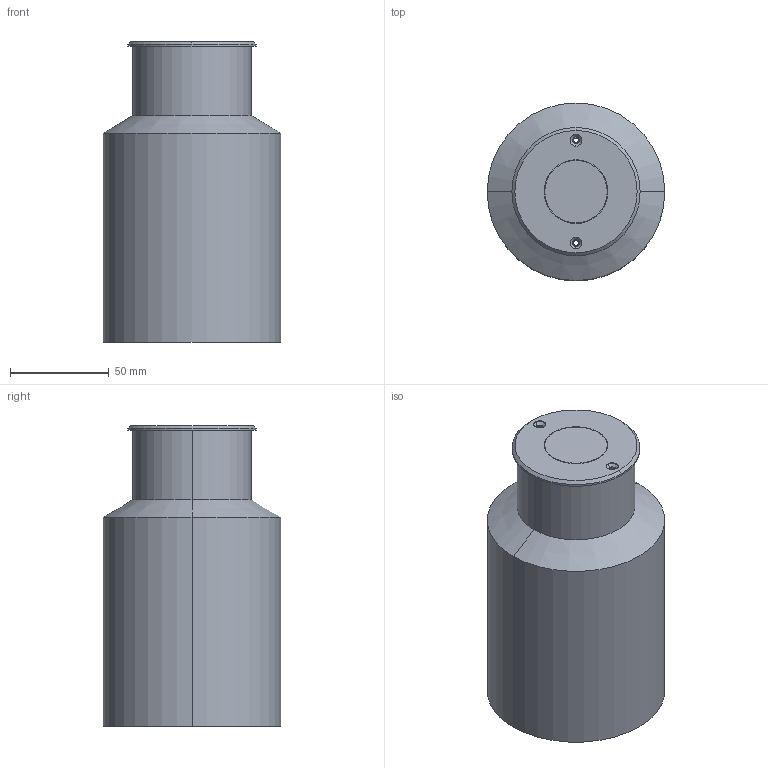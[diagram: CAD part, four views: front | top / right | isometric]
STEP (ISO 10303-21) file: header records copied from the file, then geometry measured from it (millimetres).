
FILE_DESCRIPTION((''),'2;1');
FILE_NAME('2CA_-__ASM','2020-01-10T',('Administrator'),(''),'PRO/ENGINEER BY PARAMETRIC TECHNOLOGY CORPORATION, 2014000','PRO/ENGINEER BY PARAMETRIC TECHNOLOGY CORPORATION, 2014000','');
FILE_SCHEMA(('CONFIG_CONTROL_DESIGN'));
Length unit declared in the file: millimetre
Products named in the file (18): 2C-A_147; 2CA-MZH_132; HOUGAI_146; 12A_1_114_132; 2I-0_108; O-RING_90; BOLI-0_77; R_68; HOUGAIJIAO_20; LED_20; MSBR-4_19; 1E2CA_21; GUANGYUAN_ASM_18_ASM; YATAO_37; 005_12; 2CY_3; ASM0001_ASM_132_ASM; 2CA_-__ASM
Assembly tree (18 placements, depth 4):
  2CA_-__ASM
    ASM0001_ASM_132_ASM
      2C-A_147
      2CA-MZH_132
      HOUGAI_146
      12A_1_114_132
      2I-0_108  x2
      O-RING_90
      BOLI-0_77
      R_68
      HOUGAIJIAO_20
      GUANGYUAN_ASM_18_ASM
        LED_20
        MSBR-4_19
        1E2CA_21
      YATAO_37
      005_12
      2CY_3
Bounding box: 90 x 90 x 152.5 mm (x, y, z)
Volume: 202712.5 mm3; surface area: 153619.3 mm2
Topology: 16 solids, 16 shells, 437 faces, 1185 edges, 793 vertices
Faces by surface type: plane 207, cylinder 165, cone 48, torus 10, bspline 7
Entity records: 14744 total; most frequent: CARTESIAN_POINT 3129, DIRECTION 2518, ORIENTED_EDGE 2318, EDGE_CURVE 1159, AXIS2_PLACEMENT_3D 991, VERTEX_POINT 775, VECTOR 536, LINE 536
